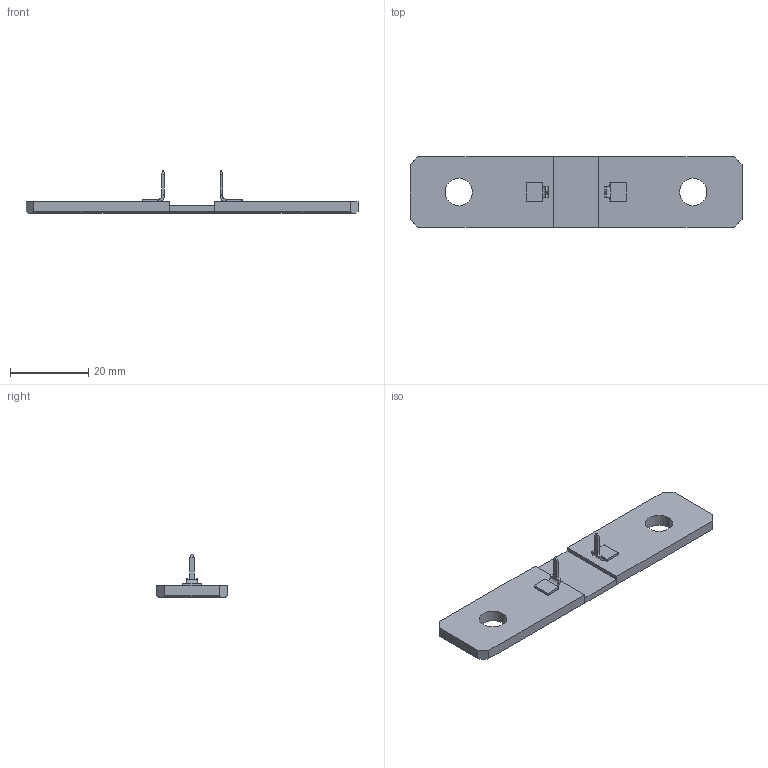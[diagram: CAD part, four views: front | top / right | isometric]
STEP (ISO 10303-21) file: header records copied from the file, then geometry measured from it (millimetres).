
FILE_DESCRIPTION (( 'STEP AP203' ), '1' );
FILE_NAME ('WSBS 8518 125 MICRO..Ohms.STEP', '2016-12-29T17:14:15', ( '' ), ( '' ), 'SwSTEP 2.0', 'SolidWorks 2016', '' );
FILE_SCHEMA (( 'CONFIG_CONTROL_DESIGN' ));
Length unit declared in the file: millimetre
Products named in the file (6): SHUNT TERMINAL - VISHAY; WSBS8518 125 micro ohms SHUNT_100 microohm; WSBS 8518 125 MICRO..Ohms; WSBS8518 125 micro ohms SHUNT
Assembly tree (3 placements, depth 2):
  WSBS 8518 125 MICRO..Ohms
    WSBS8518 125 micro ohms SHUNT_100 microohm
    SHUNT TERMINAL - VISHAY  x2
  SHUNT TERMINAL - VISHAY
  WSBS8518 125 micro ohms SHUNT
  SHUNT TERMINAL - VISHAY
Bounding box: 84.99 x 17.98 x 11 mm (x, y, z)
Volume: 4131.1 mm3; surface area: 3754.6 mm2
Topology: 3 solids, 3 shells, 104 faces, 272 edges, 176 vertices
Faces by surface type: plane 64, cylinder 32, bspline 8
Entity records: 2741 total; most frequent: CARTESIAN_POINT 545, ORIENTED_EDGE 356, DIRECTION 328, EDGE_CURVE 178, VERTEX_POINT 116, VECTOR 114, LINE 114, AXIS2_PLACEMENT_3D 107
